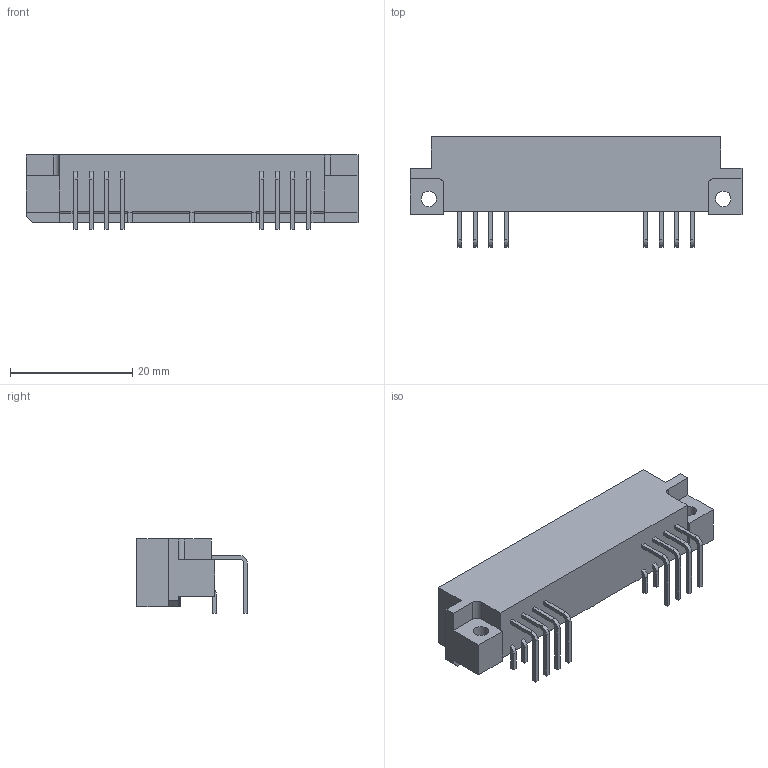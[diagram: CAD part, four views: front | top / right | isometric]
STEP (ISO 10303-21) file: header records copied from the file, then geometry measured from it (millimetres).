
FILE_DESCRIPTION(/* description */ (''),/* implementation_level */ '2;1');
FILE_NAME(/* name */ 'DIN-032CPB-SR1-XX_step.stp',/* time_stamp */ '2015-04-21T08:08:00-05:00',/* author */ (''),/* organization */ (''),/* preprocessor_version */ 'ST-DEVELOPER v15',/* originating_system */ 'SIEMENS PLM Software NX 9.0',/* authorisation */ '');
FILE_SCHEMA (('AUTOMOTIVE_DESIGN { 1 0 10303 214 3 1 1 1 }'));
Length unit declared in the file: inch
Products named in the file (1): us250C6080B25qed
Bounding box: 54.41 x 18.11 x 12.15 mm (x, y, z)
Volume: 3795.1 mm3; surface area: 4150.5 mm2
Topology: 1 solids, 1 shells, 290 faces, 755 edges, 500 vertices
Faces by surface type: plane 250, cylinder 40
Full cylindrical faces by diameter (mm): 2.54 x2
Entity records: 8786 total; most frequent: CARTESIAN_POINT 1541, ORIENTED_EDGE 1502, DIRECTION 1417, EDGE_CURVE 751, LINE 669, VECTOR 669, VERTEX_POINT 498, AXIS2_PLACEMENT_3D 374
